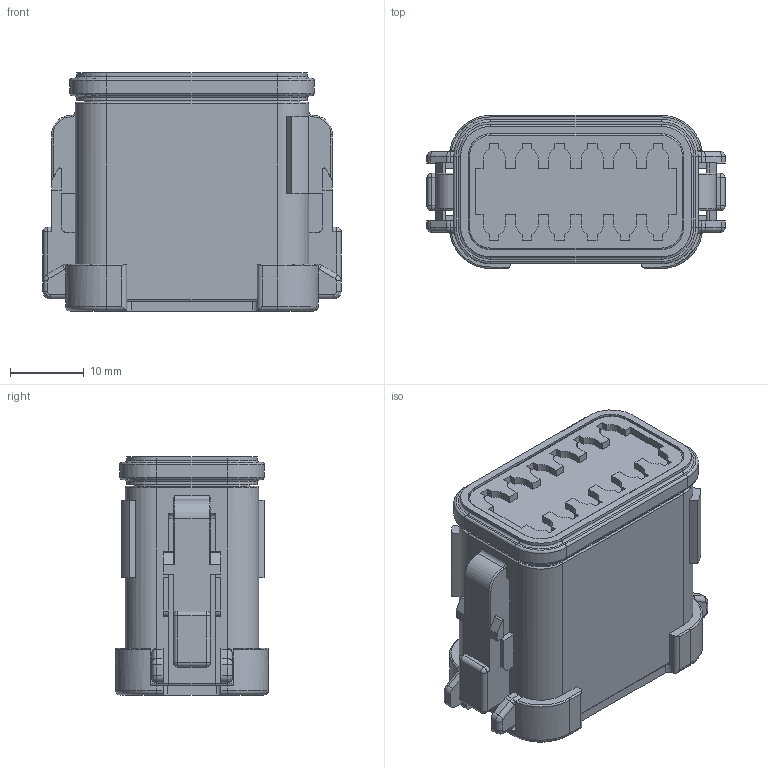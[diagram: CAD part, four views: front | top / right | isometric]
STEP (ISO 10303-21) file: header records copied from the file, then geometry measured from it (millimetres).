
FILE_DESCRIPTION((''),'2;1');
FILE_NAME('C-DT06-12SC-CE01','2013-07-25T',('workeradm'),('Tyco Electronics Ltd.'),'PRO/ENGINEER BY PARAMETRIC TECHNOLOGY CORPORATION, 2011490','PRO/ENGINEER BY PARAMETRIC TECHNOLOGY CORPORATION, 2011490','');
FILE_SCHEMA(('AUTOMOTIVE_DESIGN { 1 0 10303 214 1 1 1 1 }'));
Length unit declared in the file: millimetre
Products named in the file (1): C-DT06-12SC-CE01
Bounding box: 40.56 x 20.83 x 32.38 mm (x, y, z)
Volume: 18795.8 mm3; surface area: 6454.2 mm2
Topology: 1 solids, 1 shells, 733 faces, 1875 edges, 1166 vertices
Faces by surface type: plane 361, cylinder 232, torus 96, cone 24, bspline 12, sphere 8
Entity records: 22779 total; most frequent: CARTESIAN_POINT 4308, DIRECTION 3915, ORIENTED_EDGE 3750, EDGE_CURVE 1875, AXIS2_PLACEMENT_3D 1343, VECTOR 1229, LINE 1229, VERTEX_POINT 1166
